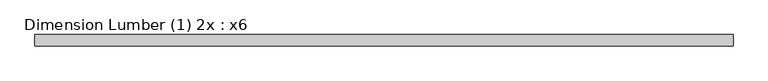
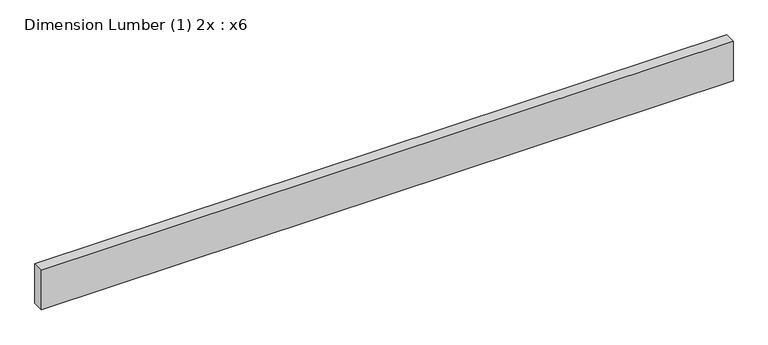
"""IFC4 building model written with IfcOpenShell, lengths in millimetres: beam geometry, Dimension Lumber (1) 2x : x6."""

from ifc_helpers import new_model, si_unit, frame, origin, place, context, project, spatial, polyline, outline, extrude, source, transform, mapped, element, save


def dimension_lumber_1_2x_x6_27537e1e(model_context):
    return source(origin(), model_context, "Body", "SweptSolid", [
        extrude(outline(polyline([(1161.1356, 19.05), (1161.1356, -19.05), (-1161.1356, -19.05), (-1161.1356, 19.05), (1161.1356, 19.05)])), frame((0.0, 0.0, -69.85), z_axis=(0.0, 0.0, 1.0), x_axis=(1.0, 0.0, 0.0)), (0.0, 0.0, 1.0), 139.7),
    ])


if __name__ == "__main__":
    model = new_model("IFC4")
    model_context = context("Model", 3, world=origin())
    ifc_project = project(units=[si_unit("LENGTHUNIT", "METRE", prefix="MILLI")], contexts=[model_context])
    site = spatial("IfcSite", under=ifc_project)
    building = spatial("IfcBuilding", under=site)
    placement = place(None, origin())
    dimension_lumber_1_2x_x6_shape = dimension_lumber_1_2x_x6_27537e1e(model_context)
    element("IfcBeam", 1, ObjectType="Dimension Lumber (1) 2x : x6", at=placement, inside=building, context=model_context, shape_type="MappedRepresentation", body=[
        mapped(dimension_lumber_1_2x_x6_shape, transform((0.0, 0.0, 0.0), x_axis=(1.0, 0.0, 0.0), y_axis=(0.0, 1.0, 0.0), z_axis=(0.0, 0.0, 1.0))),
    ])
    save(model, "model.ifc")
